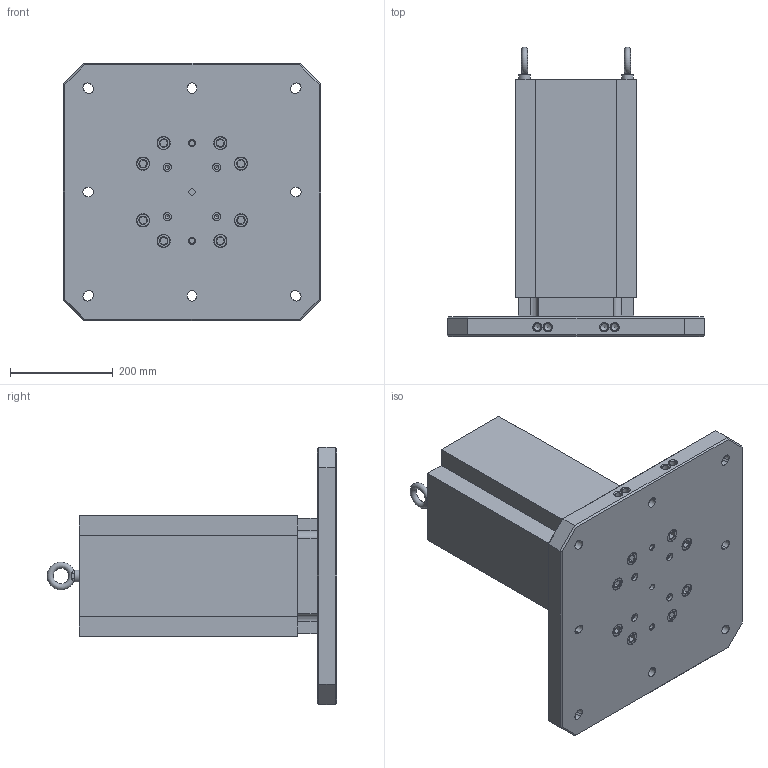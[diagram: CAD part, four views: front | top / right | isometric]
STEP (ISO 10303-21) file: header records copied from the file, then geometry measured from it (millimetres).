
FILE_DESCRIPTION (( 'STEP AP214' ), '1' );
FILE_NAME ('MTA-5004U-500_WEBSITE.step', '2025-08-11T12:56:17', ( '' ), ( '' ), 'SwSTEP 2.0', 'SolidWorks 2024', '' );
FILE_SCHEMA (( 'AUTOMOTIVE_DESIGN' ));
Length unit declared in the file: millimetre
Products named in the file (7): M12X24MM.EB (McM 3040T15)_WEBSITE_3040T15; MTA-5004U-500_WEBSITE; HW.76452_dev_WEBSITE_91290A835; RL96-14TC_WEBSITE; HW.76172_WEBSITE; MT-4462A_WEBSITE_MT-4600A; RL96-5004BUA_WEBSITE
Assembly tree (17 placements, depth 2):
  MTA-5004U-500_WEBSITE
    RL96-5004BUA_WEBSITE
    MT-4462A_WEBSITE_MT-4600A
    RL96-14TC_WEBSITE
    HW.76172_WEBSITE  x4
    M12X24MM.EB (McM 3040T15)_WEBSITE_3040T15  x2
    HW.76452_dev_WEBSITE_91290A835  x8
Bounding box: 500 x 562.81 x 500 mm (x, y, z)
Volume: 24343368.8 mm3; surface area: 1465667.2 mm2
Topology: 17 solids, 17 shells, 591 faces, 1296 edges, 798 vertices
Faces by surface type: plane 313, cylinder 162, cone 114, torus 2
Full cylindrical faces by diameter (mm): 5 x4, 6 x4, 6.6 x4, 8.5 x4, 10 x4, 10.025 x4, 10.2 x4, 11 x4, 12 x3, 14 x13, 16 x8, 16.02 x4, 17.5 x16, 23 x2, 24 x8, 26 x8
Entity records: 11767 total; most frequent: CARTESIAN_POINT 2017, DIRECTION 1914, ORIENTED_EDGE 1602, EDGE_CURVE 801, AXIS2_PLACEMENT_3D 718, EDGE_LOOP 596, VERTEX_POINT 571, VECTOR 478
